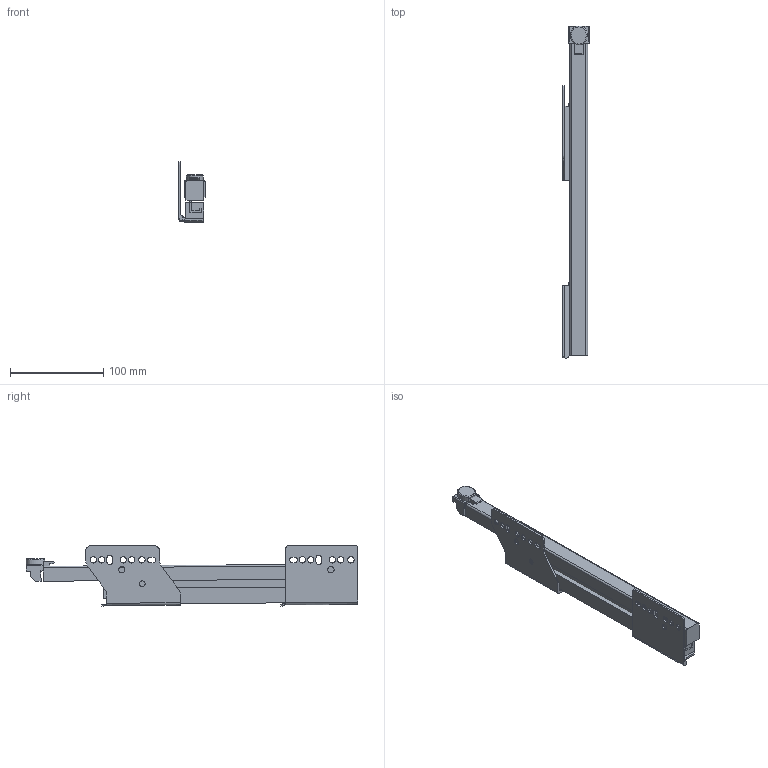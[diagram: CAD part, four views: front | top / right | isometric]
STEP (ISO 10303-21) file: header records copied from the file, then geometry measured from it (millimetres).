
FILE_DESCRIPTION (( 'STEP AP214' ), '1' );
FILE_NAME ('_IMOS_NOVA-Pro_KS_TL_EB29mm_LI_NL350.step', '2010-07-15T11:34:14', ( 'grass' ), ( '' ), 'SwSTEP 2.0', 'SolidWorks 2009', '' );
FILE_SCHEMA (( 'AUTOMOTIVE_DESIGN' ));
Length unit declared in the file: millimetre
Products named in the file (1): _IMOS_NOVA-Pro_KS_TL_EB29mm_LI_NL350
Bounding box: 27.9 x 355.61 x 64.46 mm (x, y, z)
Volume: 242332.8 mm3; surface area: 104796.7 mm2
Topology: 8 solids, 8 shells, 185 faces, 496 edges, 328 vertices
Faces by surface type: plane 116, cylinder 64, torus 5
Entity records: 5964 total; most frequent: CARTESIAN_POINT 1097, ORIENTED_EDGE 992, DIRECTION 972, EDGE_CURVE 496, LINE 350, VECTOR 350, VERTEX_POINT 328, AXIS2_PLACEMENT_3D 311
